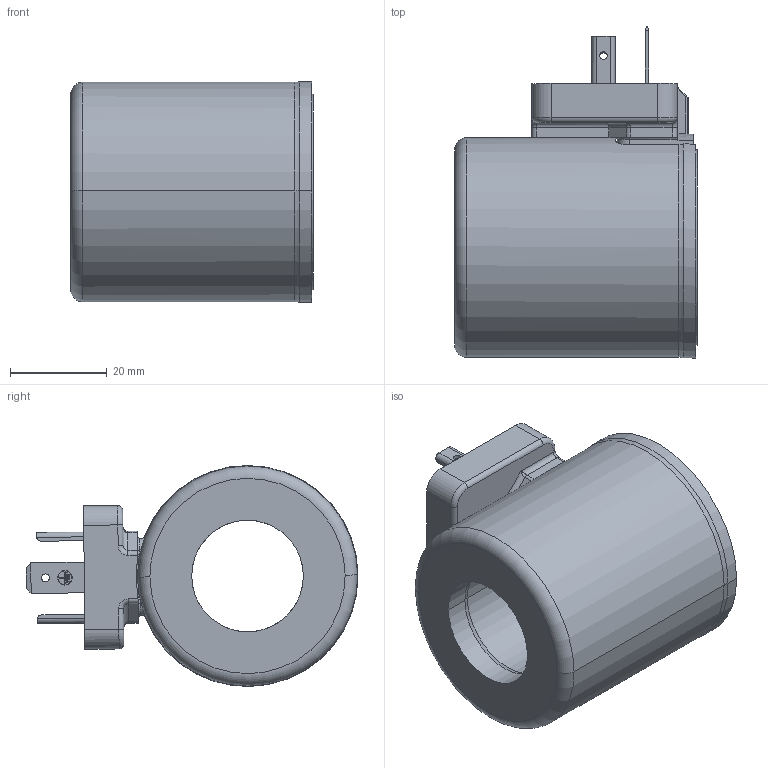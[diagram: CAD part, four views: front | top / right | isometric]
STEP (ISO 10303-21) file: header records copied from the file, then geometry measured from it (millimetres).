
FILE_DESCRIPTION (( 'STEP AP214' ), '1' );
FILE_NAME ('WDS45_23x50.STEP', '2017-03-24T12:58:19', ( '' ), ( '' ), 'SwSTEP 2.0', 'SolidWorks 2016', '' );
FILE_SCHEMA (( 'AUTOMOTIVE_DESIGN' ));
Length unit declared in the file: millimetre
Products named in the file (1): WDS45_23x50
Bounding box: 50.1 x 68.52 x 45.6 mm (x, y, z)
Volume: 66707.1 mm3; surface area: 17495.9 mm2
Topology: 1 solids, 1 shells, 738 faces, 1970 edges, 1279 vertices
Faces by surface type: plane 407, cylinder 251, cone 26, torus 24, bspline 22, sphere 8
Entity records: 34454 total; most frequent: CARTESIAN_POINT 9478, ORIENTED_EDGE 3930, DIRECTION 3815, EDGE_CURVE 1965, LINE 1301, VECTOR 1301, VERTEX_POINT 1279, AXIS2_PLACEMENT_3D 1257
